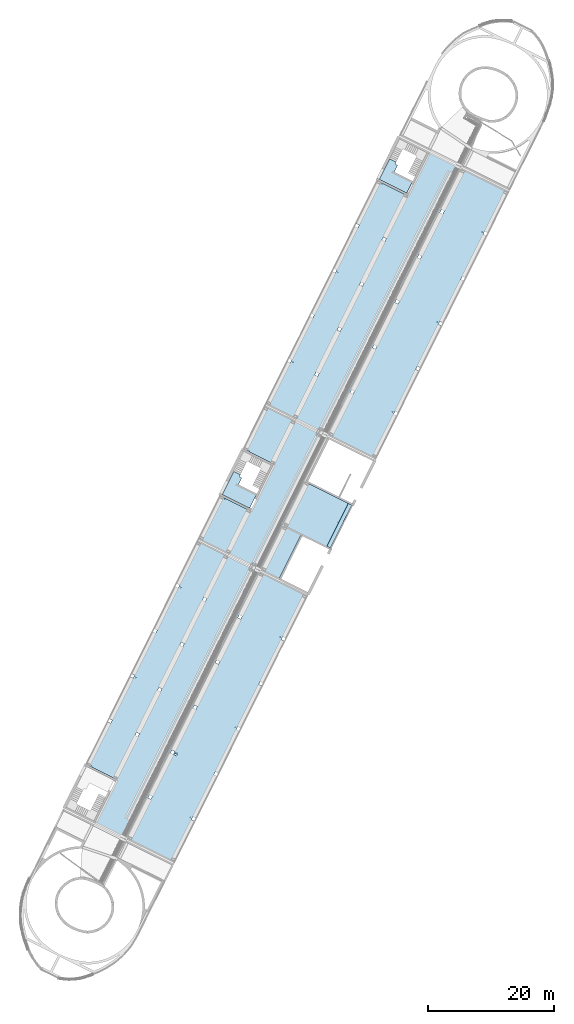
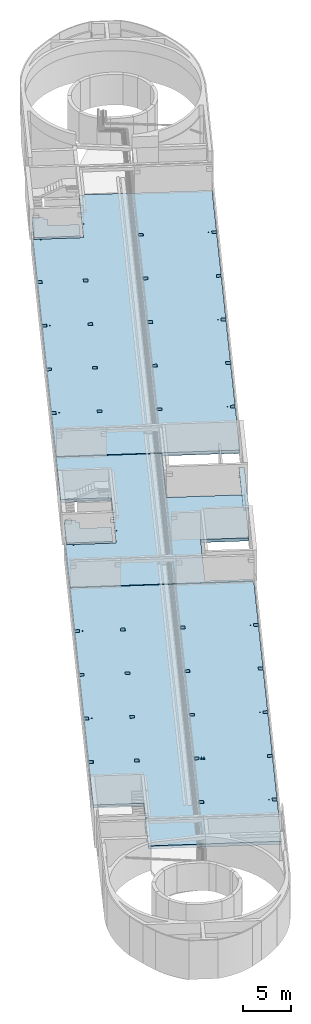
# One storey, part 2 of 47: 6 slabs, 39 openings.
"""IFC2X3 building model written with IfcOpenShell, lengths in metres."""

from ifc_helpers import new_model, entity, si_unit, converted_unit, derived_unit, direction, frame, frame_2d, origin, origin_2d_with_axis, place, context, subcontext, project, spatial, polyline, rectangle, circle, outline, extrude, material, layer, layer_set, layer_usage, element, save


model = new_model("IFC2X3")

# Units and contexts
model_context = context("Model", 3, precision=1e-05, world=origin(), true_north=direction((0.894925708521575, 0.446215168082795)))
context_of_model = context(None, 3, precision=1e-05, world=origin(), true_north=direction((0.894925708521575, 0.446215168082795)))
body_context = subcontext(model_context, "Body", "Model", "MODEL_VIEW")
ifc_project = project(units=[si_unit("LENGTHUNIT", "METRE"), si_unit("AREAUNIT", "SQUARE_METRE"), si_unit("VOLUMEUNIT", "CUBIC_METRE"), converted_unit("PLANEANGLEUNIT", "DEGREE", entity("IfcRatioMeasure", 0.0174532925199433), si_unit("PLANEANGLEUNIT", "RADIAN"), dimensions=[0, 0, 0, 0, 0, 0, 0]), si_unit("MASSUNIT", "GRAM", prefix="KILO"), si_unit("TIMEUNIT", "SECOND"), si_unit("FREQUENCYUNIT", "HERTZ"), si_unit("THERMODYNAMICTEMPERATUREUNIT", "DEGREE_CELSIUS"), derived_unit("THERMALTRANSMITTANCEUNIT", [(si_unit("MASSUNIT", "GRAM", prefix="KILO"), 1), (si_unit("THERMODYNAMICTEMPERATUREUNIT", "KELVIN"), -1), (si_unit("TIMEUNIT", "SECOND"), -3)]), derived_unit("VOLUMETRICFLOWRATEUNIT", [(si_unit("LENGTHUNIT", "METRE"), 3), (si_unit("TIMEUNIT", "SECOND"), -1)]), si_unit("ELECTRICCURRENTUNIT", "AMPERE"), si_unit("ELECTRICVOLTAGEUNIT", "VOLT"), si_unit("POWERUNIT", "WATT"), si_unit("FORCEUNIT", "NEWTON", prefix="KILO"), si_unit("ILLUMINANCEUNIT", "LUX"), si_unit("LUMINOUSFLUXUNIT", "LUMEN"), si_unit("LUMINOUSINTENSITYUNIT", "CANDELA"), si_unit("PRESSUREUNIT", "PASCAL")], contexts=[model_context, context_of_model])

# Site, building, storey
site_placement = place(None, frame((218.228324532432, 584.720189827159, 0.0), z_axis=(0.0, 0.0, 1.0), x_axis=(0.446215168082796, 0.894925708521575, 0.0)))
site = spatial("IfcSite", under=ifc_project, at=site_placement, Name="Default", CompositionType="ELEMENT")
building_placement = place(site_placement, origin())
building = spatial("IfcBuilding", under=site, at=building_placement, CompositionType="ELEMENT")
storey_placement = place(building_placement, frame((0.0, 0.0, 4.69)))
storey = spatial("IfcBuildingStorey", under=building, at=storey_placement, Name="1 - Piano Primo", CompositionType="ELEMENT", Elevation=4.69)

# Slab, openings
ifc_material_1 = material(Name="Default - Calcestruzzo")
ifc_layer_1 = layer(ifc_material_1, 0.1)
ifc_material_2 = material(Name="Calcestruzzo")
ifc_layer_2 = layer(ifc_material_2, 0.3)
ifc_layer_set_1 = layer_set([ifc_layer_1, ifc_layer_2], Name="Pavimento:Predal Cementizio - 40 cm")
ifc_layer_usage_1 = layer_usage(ifc_layer_set_1, "AXIS3", "POSITIVE", 0.0)
slab_1_placement = place(storey_placement, frame((-60.5294493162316, -13.2110789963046, -0.399999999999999)))
slab_1 = element("IfcSlab", 1, at=slab_1_placement, inside=storey, material=ifc_layer_usage_1, Name="Pavimento:Predal Cementizio - 40 cm", ObjectType="Pavimento:Predal Cementizio - 40 cm", PredefinedType="FLOOR", context=body_context, shape_type="SweptSolid", body=[
    extrude(outline(polyline([(15.9925388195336, 4.3399999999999), (15.9925388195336, 9.67000000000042), (8.40375541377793, 9.67000000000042), (8.40375541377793, 9.16000000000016), (7.88375541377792, 9.16000000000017), (7.88375541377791, 9.67000000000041), (0.400941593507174, 9.67000000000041), (0.400941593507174, 9.16000000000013), (-0.11905840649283, 9.16000000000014), (-0.119058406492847, 9.67000000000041), (-7.60469000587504, 9.67000000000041), (-7.60469000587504, 9.16000000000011), (-8.12469000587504, 9.16000000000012), (-8.12469000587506, 9.67000000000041), (-15.6082892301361, 9.67000000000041), (-15.6082892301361, 9.16000000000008), (-16.1282892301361, 9.16000000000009), (-16.1282892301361, 9.67000000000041), (-23.8225388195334, 9.67000000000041), (-23.8225388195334, -9.67000000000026), (-16.1282892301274, -9.67000000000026), (-16.1282892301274, -9.16000000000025), (-15.6082892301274, -9.16000000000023), (-15.6082892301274, -9.67000000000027), (-8.12469000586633, -9.67000000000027), (-8.12469000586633, -9.16000000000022), (-7.60469000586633, -9.16000000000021), (-7.60469000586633, -9.67000000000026), (-0.119058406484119, -9.67000000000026), (-0.119058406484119, -9.16000000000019), (0.400941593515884, -9.16000000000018), (0.400941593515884, -9.67000000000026), (7.88375541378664, -9.67000000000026), (7.88375541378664, -9.16000000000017), (8.40375541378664, -9.16000000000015), (8.40375541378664, -9.67000000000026), (15.8768509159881, -9.67000000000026), (15.8768509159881, -9.16000000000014), (16.3968509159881, -9.16000000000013), (16.3968509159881, -9.67000000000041), (23.8225388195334, -9.67000000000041), (23.8225388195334, 4.33999999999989), (15.9925388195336, 4.3399999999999)])), frame((23.8225388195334, 9.67000000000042, 0.399999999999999), z_axis=(0.0, 0.0, -1.0), x_axis=(-1.0, 0.0, 0.0)), (0.0, 0.0, 1.0), 0.4),
])
opening_1_placement = place(slab_1_placement, frame((39.6908280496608, 14.2600000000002, 0.399999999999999)))
element("IfcOpeningElement", 2, at=opening_1_placement, cuts=slab_1, Name="Pavimento:Predal Cementizio - 40 cm:2", ObjectType="Opening", context=body_context, shape_type="SweptSolid", body=[
    extrude(rectangle(XDim=0.5, YDim=0.499999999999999, at=origin_2d_with_axis()), frame((0.0, 0.0, 0.0), z_axis=(0.0, 0.0, -1.0), x_axis=(0.0, -1.0, 0.0)), (0.0, 0.0, 1.0), 0.4),
])
opening_2_placement = place(slab_1_placement, frame((39.6908280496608, 7.96000000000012, 0.399999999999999)))
element("IfcOpeningElement", 3, at=opening_2_placement, cuts=slab_1, Name="Pavimento:Predal Cementizio - 40 cm:3", ObjectType="Opening", context=body_context, shape_type="SweptSolid", body=[
    extrude(rectangle(XDim=0.499999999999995, YDim=0.499999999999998, at=origin_2d_with_axis()), frame((0.0, 0.0, 0.0), z_axis=(0.0, 0.0, -1.0), x_axis=(-1.0, 0.0, 0.0)), (0.0, 0.0, 1.0), 0.4),
])
opening_3_placement = place(slab_1_placement, frame((31.6872288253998, 14.2600000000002, 0.399999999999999)))
element("IfcOpeningElement", 4, at=opening_3_placement, cuts=slab_1, Name="Pavimento:Predal Cementizio - 40 cm:4", ObjectType="Opening", context=body_context, shape_type="SweptSolid", body=[
    extrude(rectangle(XDim=0.499999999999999, YDim=0.5, at=origin_2d_with_axis()), frame((0.0, 0.0, 0.0), z_axis=(0.0, 0.0, -1.0), x_axis=(1.0, 0.0, 0.0)), (0.0, 0.0, 1.0), 0.4),
])
opening_4_placement = place(slab_1_placement, frame((31.6872288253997, 7.96000000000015, 0.399999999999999)))
element("IfcOpeningElement", 5, at=opening_4_placement, cuts=slab_1, Name="Pavimento:Predal Cementizio - 40 cm:5", ObjectType="Opening", context=body_context, shape_type="SweptSolid", body=[
    extrude(rectangle(XDim=0.499999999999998, YDim=0.499999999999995, at=origin_2d_with_axis()), frame((0.0, 0.0, 0.0), z_axis=(0.0, 0.0, -1.0), x_axis=(0.0, -1.0, 0.0)), (0.0, 0.0, 1.0), 0.4),
])
opening_5_placement = place(slab_1_placement, frame((23.6815972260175, 7.96000000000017, 0.399999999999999)))
element("IfcOpeningElement", 6, at=opening_5_placement, cuts=slab_1, Name="Pavimento:Predal Cementizio - 40 cm:6", ObjectType="Opening", context=body_context, shape_type="SweptSolid", body=[
    extrude(rectangle(XDim=0.499999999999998, YDim=0.499999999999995, at=origin_2d_with_axis()), frame((0.0, 0.0, 0.0), z_axis=(0.0, 0.0, -1.0), x_axis=(0.0, -1.0, 0.0)), (0.0, 0.0, 1.0), 0.4),
])
opening_6_placement = place(slab_1_placement, frame((23.6815972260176, 14.2600000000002, 0.399999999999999)))
element("IfcOpeningElement", 7, at=opening_6_placement, cuts=slab_1, Name="Pavimento:Predal Cementizio - 40 cm:7", ObjectType="Opening", context=body_context, shape_type="SweptSolid", body=[
    extrude(rectangle(XDim=0.499999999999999, YDim=0.5, at=origin_2d_with_axis()), frame((0.0, 0.0, 0.0), z_axis=(0.0, 0.0, -1.0), x_axis=(1.0, 0.0, 0.0)), (0.0, 0.0, 1.0), 0.4),
])
opening_7_placement = place(slab_1_placement, frame((15.6787834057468, 14.2600000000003, 0.399999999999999)))
element("IfcOpeningElement", 8, at=opening_7_placement, cuts=slab_1, Name="Pavimento:Predal Cementizio - 40 cm:8", ObjectType="Opening", context=body_context, shape_type="SweptSolid", body=[
    extrude(rectangle(XDim=0.500000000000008, YDim=0.5, at=origin_2d_with_axis()), frame((0.0, 0.0, 0.0), z_axis=(0.0, 0.0, -1.0), x_axis=(1.0, 0.0, 0.0)), (0.0, 0.0, 1.0), 0.4),
])
opening_8_placement = place(slab_1_placement, frame((15.6787834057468, 7.9600000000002, 0.399999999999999)))
element("IfcOpeningElement", 9, at=opening_8_placement, cuts=slab_1, Name="Pavimento:Predal Cementizio - 40 cm:9", ObjectType="Opening", context=body_context, shape_type="SweptSolid", body=[
    extrude(rectangle(XDim=0.499999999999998, YDim=0.500000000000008, at=origin_2d_with_axis()), frame((0.0, 0.0, 0.0), z_axis=(0.0, 0.0, -1.0), x_axis=(0.0, -1.0, 0.0)), (0.0, 0.0, 1.0), 0.4),
])
opening_9_placement = place(slab_1_placement, frame((7.68568790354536, 7.96000000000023, 0.399999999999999)))
element("IfcOpeningElement", 10, at=opening_9_placement, cuts=slab_1, Name="Pavimento:Predal Cementizio - 40 cm:10", ObjectType="Opening", context=body_context, shape_type="SweptSolid", body=[
    extrude(rectangle(XDim=0.500000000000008, YDim=0.499999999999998, at=origin_2d_with_axis()), frame((0.0, 0.0, 0.0), z_axis=(0.0, 0.0, -1.0), x_axis=(-1.0, 0.0, 0.0)), (0.0, 0.0, 1.0), 0.4),
])
opening_10_placement = place(slab_1_placement, frame((5.13999999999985, 13.8600000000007, 0.399999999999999)))
element("IfcOpeningElement", 11, at=opening_10_placement, cuts=slab_1, Name="Pavimento:Predal Cementizio - 40 cm:11", ObjectType="Opening", context=body_context, shape_type="SweptSolid", body=[
    extrude(circle(Radius=0.085, at=origin_2d_with_axis()), frame((0.0, 0.0, 0.0), z_axis=(0.0, 0.0, -1.0), x_axis=(1.0, 0.0, 0.0)), (0.0, 0.0, 1.0), 0.4),
])
opening_11_placement = place(slab_1_placement, frame((15.8287834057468, 7.4600000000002, 0.399999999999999)))
element("IfcOpeningElement", 12, at=opening_11_placement, cuts=slab_1, Name="Pavimento:Predal Cementizio - 40 cm:12", ObjectType="Opening", context=body_context, shape_type="SweptSolid", body=[
    extrude(circle(Radius=0.0549999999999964, at=origin_2d_with_axis()), frame((0.0, 0.0, 0.0), z_axis=(0.0, 0.0, -1.0), x_axis=(1.0, 0.0, 0.0)), (0.0, 0.0, 1.0), 0.4),
])
opening_12_placement = place(slab_1_placement, frame((15.8287834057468, 7.2100000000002, 0.399999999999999)))
element("IfcOpeningElement", 13, at=opening_12_placement, cuts=slab_1, Name="Pavimento:Predal Cementizio - 40 cm:13", ObjectType="Opening", context=body_context, shape_type="SweptSolid", body=[
    extrude(circle(Radius=0.0550000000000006, at=origin_2d_with_axis()), frame((0.0, 0.0, 0.0), z_axis=(0.0, 0.0, -1.0), x_axis=(1.0, 0.0, 0.0)), (0.0, 0.0, 1.0), 0.4),
])
opening_13_placement = place(slab_1_placement, frame((15.5287834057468, 7.4600000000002, 0.399999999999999)))
element("IfcOpeningElement", 14, at=opening_13_placement, cuts=slab_1, Name="Pavimento:Predal Cementizio - 40 cm:14", ObjectType="Opening", context=body_context, shape_type="SweptSolid", body=[
    extrude(circle(Radius=0.125, at=origin_2d_with_axis()), frame((0.0, 0.0, 0.0), z_axis=(0.0, 0.0, -1.0), x_axis=(1.0, 0.0, 0.0)), (0.0, 0.0, 1.0), 0.4),
])
opening_14_placement = place(slab_1_placement, frame((15.5287834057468, 7.2100000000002, 0.399999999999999)))
element("IfcOpeningElement", 15, at=opening_14_placement, cuts=slab_1, Name="Pavimento:Predal Cementizio - 40 cm:15", ObjectType="Opening", context=body_context, shape_type="SweptSolid", body=[
    extrude(circle(Radius=0.100000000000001, at=origin_2d_with_axis()), frame((0.0, 0.0, 0.0), z_axis=(0.0, 0.0, -1.0), x_axis=(1.0, 0.0, 0.0)), (0.0, 0.0, 1.0), 0.4),
])
opening_15_placement = place(slab_1_placement, frame((7.94250000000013, 18.5100000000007, 0.399999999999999)))
element("IfcOpeningElement", 16, at=opening_15_placement, cuts=slab_1, Name="Pavimento:Predal Cementizio - 40 cm:16", ObjectType="Opening", context=body_context, shape_type="SweptSolid", body=[
    extrude(circle(Radius=0.0599999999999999, at=origin_2d_with_axis()), frame((0.0, 0.0, 0.0), z_axis=(0.0, 0.0, -1.0), x_axis=(1.0, 0.0, 0.0)), (0.0, 0.0, 1.0), 0.4),
])
opening_16_placement = place(slab_1_placement, frame((23.6811894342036, 18.5100000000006, 0.399999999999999)))
element("IfcOpeningElement", 17, at=opening_16_placement, cuts=slab_1, Name="Pavimento:Predal Cementizio - 40 cm:17", ObjectType="Opening", context=body_context, shape_type="SweptSolid", body=[
    extrude(circle(Radius=0.0599999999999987, at=origin_2d_with_axis()), frame((0.0, 0.0, 0.0), z_axis=(0.0, 0.0, -1.0), x_axis=(1.0, 0.0, 0.0)), (0.0, 0.0, 1.0), 0.4),
])
opening_17_placement = place(slab_1_placement, frame((39.6904202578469, 18.5100000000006, 0.399999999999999)))
element("IfcOpeningElement", 18, at=opening_17_placement, cuts=slab_1, Name="Pavimento:Predal Cementizio - 40 cm:18", ObjectType="Opening", context=body_context, shape_type="SweptSolid", body=[
    extrude(circle(Radius=0.0599999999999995, at=origin_2d_with_axis()), frame((0.0, 0.0, 0.0), z_axis=(0.0, 0.0, -1.0), x_axis=(1.0, 0.0, 0.0)), (0.0, 0.0, 1.0), 0.4),
])
opening_18_placement = place(slab_1_placement, frame((7.68568790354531, 0.830000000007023, 0.399999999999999)))
element("IfcOpeningElement", 19, at=opening_18_placement, cuts=slab_1, Name="Pavimento:Predal Cementizio - 40 cm:19", ObjectType="Opening", context=body_context, shape_type="SweptSolid", body=[
    extrude(circle(Radius=0.0599999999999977, at=origin_2d_with_axis()), frame((0.0, 0.0, 0.0), z_axis=(0.0, 0.0, -1.0), x_axis=(1.0, 0.0, 0.0)), (0.0, 0.0, 1.0), 0.4),
])
opening_19_placement = place(slab_1_placement, frame((23.681189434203, 0.83000000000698, 0.399999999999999)))
element("IfcOpeningElement", 20, at=opening_19_placement, cuts=slab_1, Name="Pavimento:Predal Cementizio - 40 cm:20", ObjectType="Opening", context=body_context, shape_type="SweptSolid", body=[
    extrude(circle(Radius=0.0599999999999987, at=origin_2d_with_axis()), frame((0.0, 0.0, 0.0), z_axis=(0.0, 0.0, -1.0), x_axis=(1.0, 0.0, 0.0)), (0.0, 0.0, 1.0), 0.4),
])
opening_20_placement = place(slab_1_placement, frame((39.6904202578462, 0.83000000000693, 0.399999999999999)))
element("IfcOpeningElement", 21, at=opening_20_placement, cuts=slab_1, Name="Pavimento:Predal Cementizio - 40 cm:21", ObjectType="Opening", context=body_context, shape_type="SweptSolid", body=[
    extrude(circle(Radius=0.0600000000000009, at=origin_2d_with_axis()), frame((0.0, 0.0, 0.0), z_axis=(0.0, 0.0, -1.0), x_axis=(1.0, 0.0, 0.0)), (0.0, 0.0, 1.0), 0.4),
])

ifc_layer_usage_2 = layer_usage(ifc_layer_set_1, "AXIS3", "POSITIVE", 0.0)
slab_2_placement = place(storey_placement, frame((-12.7843716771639, -13.2010789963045, -0.399999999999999)))
slab_2 = element("IfcSlab", 22, at=slab_2_placement, inside=storey, material=ifc_layer_usage_2, Name="Pavimento:Predal Cementizio - 40 cm", ObjectType="Pavimento:Predal Cementizio - 40 cm", PredefinedType="FLOOR", context=body_context, shape_type="SweptSolid", body=[
    extrude(outline(polyline([(11.9392933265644, -9.57500000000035), (11.9392933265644, 9.6650000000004), (4.14070667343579, 9.6650000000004), (4.14070667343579, 4.33499999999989), (-4.15929332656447, 4.33499999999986), (-4.15929332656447, 9.66500000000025), (-11.9392933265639, 9.66500000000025), (-11.9392933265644, -1.46500000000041), (-3.8592933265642, -1.46500000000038), (-3.8592933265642, -9.66500000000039), (3.73929332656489, -9.66500000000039), (3.73929332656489, -9.57500000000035), (4.03929332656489, -9.57500000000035), (4.03929332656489, -4.56500000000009), (11.6392933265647, -4.56500000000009), (11.6392933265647, -9.57500000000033), (11.9392933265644, -9.57500000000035)])), frame((11.9392933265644, 9.66500000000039, 0.399999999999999), z_axis=(0.0, 0.0, -1.0), x_axis=(-1.0, 0.0, 0.0)), (0.0, 0.0, 1.0), 0.4),
])
opening_21_placement = place(slab_2_placement, frame((10.0385866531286, 13.8500000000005, 0.399999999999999)))
element("IfcOpeningElement", 23, at=opening_21_placement, cuts=slab_2, Name="Pavimento:Predal Cementizio - 40 cm:2", ObjectType="Opening", context=body_context, shape_type="SweptSolid", body=[
    extrude(circle(Radius=0.085, at=origin_2d_with_axis()), frame((0.0, 0.0, 0.0), z_axis=(0.0, 0.0, -1.0), x_axis=(1.0, 0.0, 0.0)), (0.0, 0.0, 1.0), 0.4),
])
opening_22_placement = place(slab_2_placement, frame((7.68608665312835, 18.5000000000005, 0.399999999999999)))
element("IfcOpeningElement", 24, at=opening_22_placement, cuts=slab_2, Name="Pavimento:Predal Cementizio - 40 cm:3", ObjectType="Opening", context=body_context, shape_type="SweptSolid", body=[
    extrude(circle(Radius=0.0600000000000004, at=origin_2d_with_axis()), frame((0.0, 0.0, 0.0), z_axis=(0.0, 0.0, -1.0), x_axis=(1.0, 0.0, 0.0)), (0.0, 0.0, 1.0), 0.4),
])
opening_23_placement = place(slab_2_placement, frame((16.2110866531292, 18.5000000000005, 0.399999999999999)))
element("IfcOpeningElement", 25, at=opening_23_placement, cuts=slab_2, Name="Pavimento:Predal Cementizio - 40 cm:4", ObjectType="Opening", context=body_context, shape_type="SweptSolid", body=[
    extrude(circle(Radius=0.0599999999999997, at=origin_2d_with_axis()), frame((0.0, 0.0, 0.0), z_axis=(0.0, 0.0, -1.0), x_axis=(1.0, 0.0, 0.0)), (0.0, 0.0, 1.0), 0.4),
])

ifc_layer_usage_3 = layer_usage(ifc_layer_set_1, "AXIS3", "POSITIVE", 0.0)
slab_3_placement = place(storey_placement, frame((11.1942149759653, -13.2110789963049, -0.399999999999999)))
slab_3 = element("IfcSlab", 26, at=slab_3_placement, inside=storey, material=ifc_layer_usage_3, Name="Pavimento:Predal Cementizio - 40 cm", ObjectType="Pavimento:Predal Cementizio - 40 cm", PredefinedType="FLOOR", context=body_context, shape_type="SweptSolid", body=[
    extrude(outline(polyline([(23.8208610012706, -9.67000000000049), (23.8208610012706, 9.67000000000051), (16.0992464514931, 9.67000000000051), (16.0992464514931, 9.16000000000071), (15.5792464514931, 9.16000000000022), (15.5792464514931, 9.67000000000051), (8.10603086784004, 9.67000000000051), (8.10603086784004, 9.16000000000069), (7.58603086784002, 9.16000000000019), (7.58603086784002, 9.67000000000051), (0.108579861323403, 9.67000000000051), (0.108579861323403, 9.16000000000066), (-0.411420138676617, 9.16000000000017), (-0.411420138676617, 9.67000000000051), (-7.88452638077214, 9.67000000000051), (-7.88452638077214, 9.16000000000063), (-8.40452638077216, 9.16000000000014), (-8.40452638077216, 9.67000000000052), (-15.9908610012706, 9.67000000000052), (-15.9908610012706, 4.34000000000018), (-23.8208610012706, 4.34000000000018), (-23.8208610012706, -9.67000000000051), (-16.4032670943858, -9.67000000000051), (-16.4032670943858, -9.16000000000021), (-15.8832670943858, -9.16000000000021), (-15.8832670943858, -9.67000000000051), (-8.40452638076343, -9.67000000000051), (-8.40452638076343, -9.16000000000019), (-7.88452638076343, -9.16000000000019), (-7.88452638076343, -9.67000000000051), (-0.41142013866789, -9.67000000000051), (-0.41142013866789, -9.16000000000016), (0.108579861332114, -9.16000000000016), (0.108579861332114, -9.67000000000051), (7.58603086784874, -9.67000000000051), (7.58603086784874, -9.16000000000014), (8.10603086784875, -9.16000000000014), (8.10603086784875, -9.67000000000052), (15.5792464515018, -9.67000000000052), (15.5792464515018, -9.16000000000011), (16.0992464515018, -9.16000000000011), (16.0992464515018, -9.67000000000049), (23.8208610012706, -9.67000000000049)])), frame((23.8208610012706, 9.67000000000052, 0.399999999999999), z_axis=(0.0, 0.0, -1.0), x_axis=(-1.0, 0.0, 0.0)), (0.0, 0.0, 1.0), 0.4),
])
opening_24_placement = place(slab_3_placement, frame((7.98161454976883, 7.96000000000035, 0.399999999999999)))
element("IfcOpeningElement", 27, at=opening_24_placement, cuts=slab_3, Name="Pavimento:Predal Cementizio - 40 cm:2", ObjectType="Opening", context=body_context, shape_type="SweptSolid", body=[
    extrude(rectangle(XDim=0.500000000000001, YDim=0.499999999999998, at=origin_2d_with_axis()), frame((0.0, 0.0, 0.0), z_axis=(0.0, 0.0, -1.0), x_axis=(-1.0, 0.0, 0.0)), (0.0, 0.0, 1.0), 0.4),
])
opening_25_placement = place(slab_3_placement, frame((15.9748301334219, 7.96000000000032, 0.399999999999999)))
element("IfcOpeningElement", 28, at=opening_25_placement, cuts=slab_3, Name="Pavimento:Predal Cementizio - 40 cm:3", ObjectType="Opening", context=body_context, shape_type="SweptSolid", body=[
    extrude(rectangle(XDim=0.499999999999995, YDim=0.499999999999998, at=origin_2d_with_axis()), frame((0.0, 0.0, 0.0), z_axis=(0.0, 0.0, -1.0), x_axis=(-1.0, 0.0, 0.0)), (0.0, 0.0, 1.0), 0.4),
])
opening_26_placement = place(slab_3_placement, frame((23.9722811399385, 7.96000000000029, 0.399999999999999)))
element("IfcOpeningElement", 29, at=opening_26_placement, cuts=slab_3, Name="Pavimento:Predal Cementizio - 40 cm:4", ObjectType="Opening", context=body_context, shape_type="SweptSolid", body=[
    extrude(rectangle(XDim=0.499999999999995, YDim=0.499999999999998, at=origin_2d_with_axis()), frame((0.0, 0.0, 0.0), z_axis=(0.0, 0.0, -1.0), x_axis=(-1.0, 0.0, 0.0)), (0.0, 0.0, 1.0), 0.4),
])
opening_27_placement = place(slab_3_placement, frame((31.9653873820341, 7.96000000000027, 0.399999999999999)))
element("IfcOpeningElement", 30, at=opening_27_placement, cuts=slab_3, Name="Pavimento:Predal Cementizio - 40 cm:5", ObjectType="Opening", context=body_context, shape_type="SweptSolid", body=[
    extrude(rectangle(XDim=0.500000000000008, YDim=0.499999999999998, at=origin_2d_with_axis()), frame((0.0, 0.0, 0.0), z_axis=(0.0, 0.0, -1.0), x_axis=(-1.0, 0.0, 0.0)), (0.0, 0.0, 1.0), 0.4),
])
opening_28_placement = place(slab_3_placement, frame((39.9641280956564, 7.96000000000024, 0.399999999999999)))
element("IfcOpeningElement", 31, at=opening_28_placement, cuts=slab_3, Name="Pavimento:Predal Cementizio - 40 cm:6", ObjectType="Opening", context=body_context, shape_type="SweptSolid", body=[
    extrude(rectangle(XDim=0.500000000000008, YDim=0.499999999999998, at=origin_2d_with_axis()), frame((0.0, 0.0, 0.0), z_axis=(0.0, 0.0, -1.0), x_axis=(-1.0, 0.0, 0.0)), (0.0, 0.0, 1.0), 0.4),
])
opening_29_placement = place(slab_3_placement, frame((31.9653873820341, 14.2600000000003, 0.399999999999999)))
element("IfcOpeningElement", 32, at=opening_29_placement, cuts=slab_3, Name="Pavimento:Predal Cementizio - 40 cm:7", ObjectType="Opening", context=body_context, shape_type="SweptSolid", body=[
    extrude(rectangle(XDim=0.5, YDim=0.500000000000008, at=origin_2d_with_axis()), frame((0.0, 0.0, 0.0), z_axis=(0.0, 0.0, -1.0), x_axis=(0.0, -1.0, 0.0)), (0.0, 0.0, 1.0), 0.4),
])
opening_30_placement = place(slab_3_placement, frame((23.9722811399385, 14.2600000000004, 0.399999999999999)))
element("IfcOpeningElement", 33, at=opening_30_placement, cuts=slab_3, Name="Pavimento:Predal Cementizio - 40 cm:8", ObjectType="Opening", context=body_context, shape_type="SweptSolid", body=[
    extrude(rectangle(XDim=0.5, YDim=0.499999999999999, at=origin_2d_with_axis()), frame((0.0, 0.0, 0.0), z_axis=(0.0, 0.0, -1.0), x_axis=(0.0, -1.0, 0.0)), (0.0, 0.0, 1.0), 0.4),
])
opening_31_placement = place(slab_3_placement, frame((15.9748301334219, 14.2600000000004, 0.399999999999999)))
element("IfcOpeningElement", 34, at=opening_31_placement, cuts=slab_3, Name="Pavimento:Predal Cementizio - 40 cm:9", ObjectType="Opening", context=body_context, shape_type="SweptSolid", body=[
    extrude(rectangle(XDim=0.5, YDim=0.499999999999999, at=origin_2d_with_axis()), frame((0.0, 0.0, 0.0), z_axis=(0.0, 0.0, -1.0), x_axis=(0.0, -1.0, 0.0)), (0.0, 0.0, 1.0), 0.4),
])
opening_32_placement = place(slab_3_placement, frame((7.98161454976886, 14.2600000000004, 0.399999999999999)))
element("IfcOpeningElement", 35, at=opening_32_placement, cuts=slab_3, Name="Pavimento:Predal Cementizio - 40 cm:10", ObjectType="Opening", context=body_context, shape_type="SweptSolid", body=[
    extrude(rectangle(XDim=0.499999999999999, YDim=0.5, at=origin_2d_with_axis()), frame((0.0, 0.0, 0.0), z_axis=(0.0, 0.0, -1.0), x_axis=(-1.0, 0.0, 0.0)), (0.0, 0.0, 1.0), 0.4),
])
opening_33_placement = place(slab_3_placement, frame((42.3017220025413, 13.8600000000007, 0.399999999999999)))
element("IfcOpeningElement", 36, at=opening_33_placement, cuts=slab_3, Name="Pavimento:Predal Cementizio - 40 cm:11", ObjectType="Opening", context=body_context, shape_type="SweptSolid", body=[
    extrude(circle(Radius=0.085, at=origin_2d_with_axis()), frame((0.0, 0.0, 0.0), z_axis=(0.0, 0.0, -1.0), x_axis=(1.0, 0.0, 0.0)), (0.0, 0.0, 1.0), 0.4),
])
opening_34_placement = place(slab_3_placement, frame((23.9722811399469, 18.5100000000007, 0.399999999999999)))
element("IfcOpeningElement", 37, at=opening_34_placement, cuts=slab_3, Name="Pavimento:Predal Cementizio - 40 cm:12", ObjectType="Opening", context=body_context, shape_type="SweptSolid", body=[
    extrude(circle(Radius=0.06, at=origin_2d_with_axis()), frame((0.0, 0.0, 0.0), z_axis=(0.0, 0.0, -1.0), x_axis=(1.0, 0.0, 0.0)), (0.0, 0.0, 1.0), 0.4),
])
opening_35_placement = place(slab_3_placement, frame((7.98161454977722, 18.5100000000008, 0.399999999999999)))
element("IfcOpeningElement", 38, at=opening_35_placement, cuts=slab_3, Name="Pavimento:Predal Cementizio - 40 cm:13", ObjectType="Opening", context=body_context, shape_type="SweptSolid", body=[
    extrude(circle(Radius=0.0599999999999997, at=origin_2d_with_axis()), frame((0.0, 0.0, 0.0), z_axis=(0.0, 0.0, -1.0), x_axis=(1.0, 0.0, 0.0)), (0.0, 0.0, 1.0), 0.4),
])
opening_36_placement = place(slab_3_placement, frame((39.6992220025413, 18.5100000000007, 0.399999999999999)))
element("IfcOpeningElement", 39, at=opening_36_placement, cuts=slab_3, Name="Pavimento:Predal Cementizio - 40 cm:14", ObjectType="Opening", context=body_context, shape_type="SweptSolid", body=[
    extrude(circle(Radius=0.0600000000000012, at=origin_2d_with_axis()), frame((0.0, 0.0, 0.0), z_axis=(0.0, 0.0, -1.0), x_axis=(1.0, 0.0, 0.0)), (0.0, 0.0, 1.0), 0.4),
])
opening_37_placement = place(slab_3_placement, frame((7.98161454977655, 0.830000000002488, 0.399999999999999)))
element("IfcOpeningElement", 40, at=opening_37_placement, cuts=slab_3, Name="Pavimento:Predal Cementizio - 40 cm:15", ObjectType="Opening", context=body_context, shape_type="SweptSolid", body=[
    extrude(circle(Radius=0.0599999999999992, at=origin_2d_with_axis()), frame((0.0, 0.0, 0.0), z_axis=(0.0, 0.0, -1.0), x_axis=(1.0, 0.0, 0.0)), (0.0, 0.0, 1.0), 0.4),
])
opening_38_placement = place(slab_3_placement, frame((39.9641280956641, 0.830000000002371, 0.399999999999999)))
element("IfcOpeningElement", 41, at=opening_38_placement, cuts=slab_3, Name="Pavimento:Predal Cementizio - 40 cm:16", ObjectType="Opening", context=body_context, shape_type="SweptSolid", body=[
    extrude(circle(Radius=0.0599999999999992, at=origin_2d_with_axis()), frame((0.0, 0.0, 0.0), z_axis=(0.0, 0.0, -1.0), x_axis=(1.0, 0.0, 0.0)), (0.0, 0.0, 1.0), 0.4),
])
opening_39_placement = place(slab_3_placement, frame((23.9722811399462, 0.830000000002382, 0.399999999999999)))
element("IfcOpeningElement", 42, at=opening_39_placement, cuts=slab_3, Name="Pavimento:Predal Cementizio - 40 cm:17", ObjectType="Opening", context=body_context, shape_type="SweptSolid", body=[
    extrude(circle(Radius=0.059999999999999, at=origin_2d_with_axis()), frame((0.0, 0.0, 0.0), z_axis=(0.0, 0.0, -1.0), x_axis=(1.0, 0.0, 0.0)), (0.0, 0.0, 1.0), 0.4),
])

# Slabs
ifc_material_3 = material(Name="Asfalto, bitume")
ifc_layer_3 = layer(ifc_material_3, 0.01)
ifc_material_4 = material(Name="Sabbia e Calcestruzzo")
ifc_layer_4 = layer(ifc_material_4, 0.08)
ifc_layer_5 = layer(ifc_material_2, 0.4)
ifc_layer_set_2 = layer_set([ifc_layer_3, ifc_layer_4, ifc_layer_5], Name="Pavimento:Scala PT 41 cm")
ifc_layer_usage_4 = layer_usage(ifc_layer_set_2, "AXIS3", "POSITIVE", 0.0)
slab_4_placement = place(storey_placement, origin())
element("IfcSlab", 43, at=slab_4_placement, inside=storey, material=ifc_layer_usage_4, Name="Pavimento:Scala PT 41 cm", ObjectType="Pavimento:Scala PT 41 cm", PredefinedType="FLOOR", context=body_context, shape_type="SweptSolid", body=[
    extrude(outline(polyline([(-2.96253924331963, -2.27504049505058), (1.91746075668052, -2.27504049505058), (1.91746075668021, 1.38512148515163), (0.727460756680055, 1.38512148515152), (0.727460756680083, 1.03495950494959), (0.317617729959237, 1.03495950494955), (0.317617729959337, -0.145040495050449), (-2.96253924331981, -0.145040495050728), (-2.96253924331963, -2.27504049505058)])), frame((53.5909774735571, 4.07146024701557, 0.0), z_axis=(0.0, 0.0, -1.0), x_axis=(0.0, 1.0, 0.0)), (0.0, 0.0, 1.0), 0.49),
])
ifc_layer_usage_5 = layer_usage(ifc_layer_set_2, "AXIS3", "POSITIVE", 0.0)
slab_5_placement = place(storey_placement, origin())
element("IfcSlab", 44, at=slab_5_placement, inside=storey, material=ifc_layer_usage_5, Name="Pavimento:Scala PT 41 cm", ObjectType="Pavimento:Scala PT 41 cm", PredefinedType="FLOOR", context=body_context, shape_type="SweptSolid", body=[
    extrude(outline(polyline([(-2.96253924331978, -2.62754049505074), (1.91746075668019, -2.62754049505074), (1.91746075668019, 1.50262148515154), (0.727460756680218, 1.50262148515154), (0.727460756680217, 1.1524595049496), (0.31761772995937, 1.1524595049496), (0.31761772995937, -0.0275404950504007), (-2.96253924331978, -0.0275404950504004), (-2.96253924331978, -2.62754049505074)])), frame((-2.04824452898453, 4.07146024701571, 0.0), z_axis=(0.0, 0.0, -1.0), x_axis=(0.0, 1.0, 0.0)), (0.0, 0.0, 1.0), 0.49),
])
ifc_layer_6 = layer(ifc_material_1, 0.26)
ifc_layer_set_3 = layer_set([ifc_layer_6], Name="Pavimento:TRavi prefabbricate - 26 cm")
ifc_layer_usage_6 = layer_usage(ifc_layer_set_3, "AXIS3", "POSITIVE", 0.0)
slab_6_placement = place(storey_placement, origin())
element("IfcSlab", 45, at=slab_6_placement, inside=storey, material=ifc_layer_usage_6, Name="Pavimento:TRavi prefabbricate - 26 cm", ObjectType="Pavimento:TRavi prefabbricate - 26 cm", PredefinedType="FLOOR", context=body_context, shape_type="SweptSolid", body=[
    extrude(rectangle(XDim=0.6, YDim=7.59858665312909, at=frame_2d((-1.08246744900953e-15, 0.0), x_axis=(1.0, 0.0))), frame((-0.785078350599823, -12.9010789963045, 3.52), z_axis=(0.0, 0.0, -1.0), x_axis=(0.0, 1.0, 0.0)), (0.0, 0.0, 1.0), 0.26),
])

save(model, "model.ifc")
